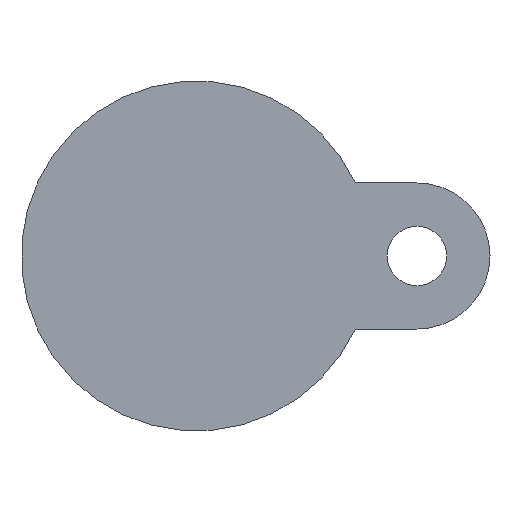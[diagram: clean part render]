
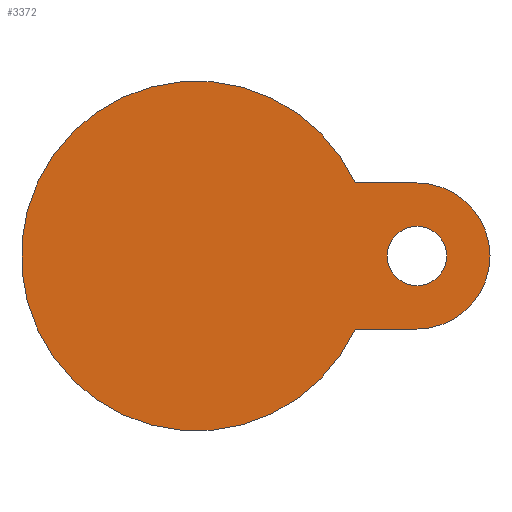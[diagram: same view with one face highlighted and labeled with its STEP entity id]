
A CAD part, front view. The second image highlights one B-rep face of the part: STEP entity #3372.
In plain terms, the highlighted planar face has unit normal (0, -1, 0).
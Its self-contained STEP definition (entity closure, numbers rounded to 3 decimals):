
#42 = DIRECTION ( 'NONE',  ( 1., 0., 0. ) ) ;
#105 = DIRECTION ( 'NONE',  ( 0., -1., 0. ) ) ;
#125 = EDGE_CURVE ( 'NONE', #1584, #2261, #1369, .T. ) ;
#139 = AXIS2_PLACEMENT_3D ( 'NONE', #171, #2536, #1545 ) ;
#160 = EDGE_CURVE ( 'NONE', #4402, #3885, #2208, .T. ) ;
#171 = CARTESIAN_POINT ( 'NONE',  ( 0., -28., 0. ) ) ;
#431 = AXIS2_PLACEMENT_3D ( 'NONE', #2814, #4130, #1798 ) ;
#435 = CIRCLE ( 'NONE', #139, 51.5 ) ;
#497 = CARTESIAN_POINT ( 'NONE',  ( 65., -28., 0. ) ) ;
#567 = EDGE_LOOP ( 'NONE', ( #2350, #2487 ) ) ;
#580 = ORIENTED_EDGE ( 'NONE', *, *, #1360, .T. ) ;
#661 = EDGE_CURVE ( 'NONE', #4062, #3389, #1859, .T. ) ;
#802 = CARTESIAN_POINT ( 'NONE',  ( 41.5, -28., -21.5 ) ) ;
#1041 = PLANE ( 'NONE',  #2944 ) ;
#1085 = AXIS2_PLACEMENT_3D ( 'NONE', #497, #3328, #2562 ) ;
#1160 = DIRECTION ( 'NONE',  ( 1., 0., 0. ) ) ;
#1261 = CARTESIAN_POINT ( 'NONE',  ( 46.797, -28., 21.5 ) ) ;
#1360 = EDGE_CURVE ( 'NONE', #4402, #2261, #435, .T. ) ;
#1369 = LINE ( 'NONE', #802, #3145 ) ;
#1443 = FACE_BOUND ( 'NONE', #567, .T. ) ;
#1545 = DIRECTION ( 'NONE',  ( 1., 0., 0. ) ) ;
#1584 = VERTEX_POINT ( 'NONE', #3909 ) ;
#1675 = EDGE_LOOP ( 'NONE', ( #580, #1990, #3702, #4295 ) ) ;
#1798 = DIRECTION ( 'NONE',  ( -1., 0., 0. ) ) ;
#1859 = CIRCLE ( 'NONE', #3934, 8.75 ) ;
#1990 = ORIENTED_EDGE ( 'NONE', *, *, #125, .F. ) ;
#2076 = VECTOR ( 'NONE', #1160, 1000. ) ;
#2208 = LINE ( 'NONE', #3432, #2076 ) ;
#2261 = VERTEX_POINT ( 'NONE', #4237 ) ;
#2298 = DIRECTION ( 'NONE',  ( -1., 0., 0. ) ) ;
#2316 = CARTESIAN_POINT ( 'NONE',  ( 65., -28., 21.5 ) ) ;
#2350 = ORIENTED_EDGE ( 'NONE', *, *, #661, .T. ) ;
#2487 = ORIENTED_EDGE ( 'NONE', *, *, #3360, .T. ) ;
#2516 = CIRCLE ( 'NONE', #1085, 21.5 ) ;
#2528 = DIRECTION ( 'NONE',  ( -1., 0., 0. ) ) ;
#2536 = DIRECTION ( 'NONE',  ( 0., -1., 0. ) ) ;
#2562 = DIRECTION ( 'NONE',  ( 1., 0., 0. ) ) ;
#2761 = EDGE_CURVE ( 'NONE', #3885, #1584, #2516, .T. ) ;
#2805 = CARTESIAN_POINT ( 'NONE',  ( 65., -28., 0. ) ) ;
#2814 = CARTESIAN_POINT ( 'NONE',  ( 65., -28., 0. ) ) ;
#2834 = CARTESIAN_POINT ( 'NONE',  ( 73.75, -28., 0. ) ) ;
#2944 = AXIS2_PLACEMENT_3D ( 'NONE', #4175, #105, #42 ) ;
#3145 = VECTOR ( 'NONE', #2528, 1000. ) ;
#3328 = DIRECTION ( 'NONE',  ( 0., 1., 0. ) ) ;
#3360 = EDGE_CURVE ( 'NONE', #3389, #4062, #4299, .T. ) ;
#3372 = ADVANCED_FACE ( 'NONE', ( #1443, #3817 ), #1041, .T. ) ;
#3389 = VERTEX_POINT ( 'NONE', #2834 ) ;
#3432 = CARTESIAN_POINT ( 'NONE',  ( 41.5, -28., 21.5 ) ) ;
#3514 = CARTESIAN_POINT ( 'NONE',  ( 56.25, -28., 0. ) ) ;
#3702 = ORIENTED_EDGE ( 'NONE', *, *, #2761, .F. ) ;
#3817 = FACE_OUTER_BOUND ( 'NONE', #1675, .T. ) ;
#3885 = VERTEX_POINT ( 'NONE', #2316 ) ;
#3909 = CARTESIAN_POINT ( 'NONE',  ( 65., -28., -21.5 ) ) ;
#3934 = AXIS2_PLACEMENT_3D ( 'NONE', #2805, #4168, #2298 ) ;
#4062 = VERTEX_POINT ( 'NONE', #3514 ) ;
#4130 = DIRECTION ( 'NONE',  ( 0., 1., 0. ) ) ;
#4168 = DIRECTION ( 'NONE',  ( 0., 1., 0. ) ) ;
#4175 = CARTESIAN_POINT ( 'NONE',  ( 51.5, -28., 0. ) ) ;
#4237 = CARTESIAN_POINT ( 'NONE',  ( 46.797, -28., -21.5 ) ) ;
#4295 = ORIENTED_EDGE ( 'NONE', *, *, #160, .F. ) ;
#4299 = CIRCLE ( 'NONE', #431, 8.75 ) ;
#4402 = VERTEX_POINT ( 'NONE', #1261 ) ;
